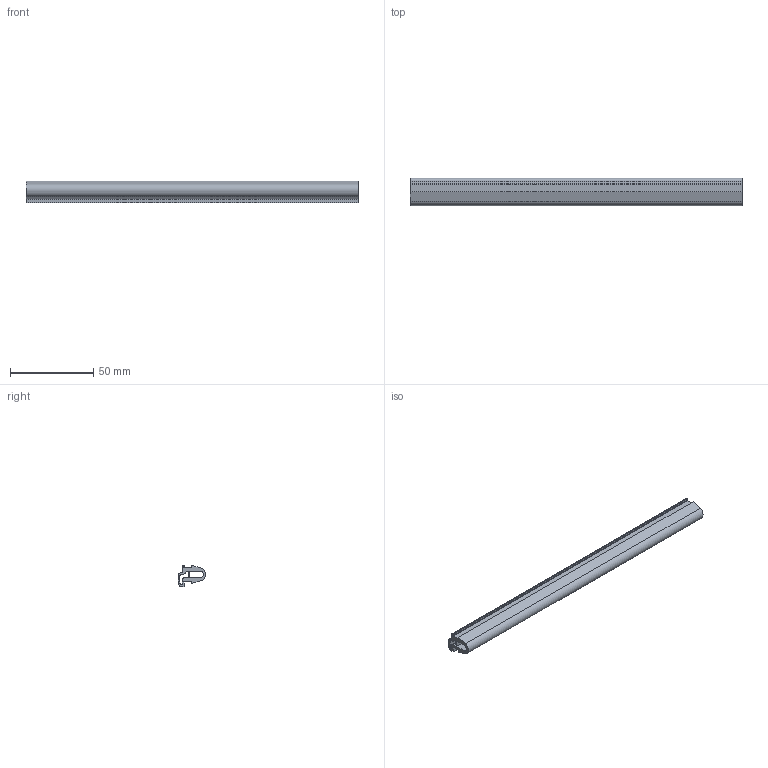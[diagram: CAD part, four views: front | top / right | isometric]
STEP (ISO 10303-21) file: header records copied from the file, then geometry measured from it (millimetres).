
FILE_DESCRIPTION (( 'STEP AP214' ), '1' );
FILE_NAME ('1.6027 Tiivisteprofiili.STEP', '2024-03-14T10:42:07', ( '' ), ( '' ), 'SwSTEP 2.0', 'SolidWorks 2024', '' );
FILE_SCHEMA (( 'AUTOMOTIVE_DESIGN' ));
Length unit declared in the file: millimetre
Products named in the file (1): 1.6027 Tiivisteprofiili
Bounding box: 200 x 16.5 x 13 mm (x, y, z)
Volume: 17395.1 mm3; surface area: 20870.8 mm2
Topology: 1 solids, 1 shells, 36 faces, 102 edges, 68 vertices
Faces by surface type: plane 24, cylinder 12
Entity records: 1597 total; most frequent: CARTESIAN_POINT 207, ORIENTED_EDGE 204, DIRECTION 200, EDGE_CURVE 102, LINE 78, VECTOR 78, VERTEX_POINT 68, AXIS2_PLACEMENT_3D 61
